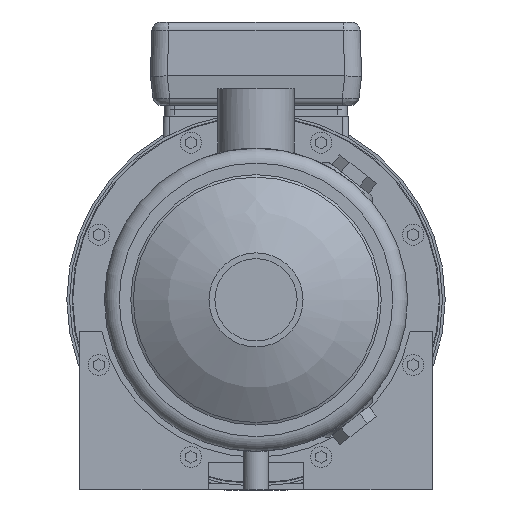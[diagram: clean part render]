
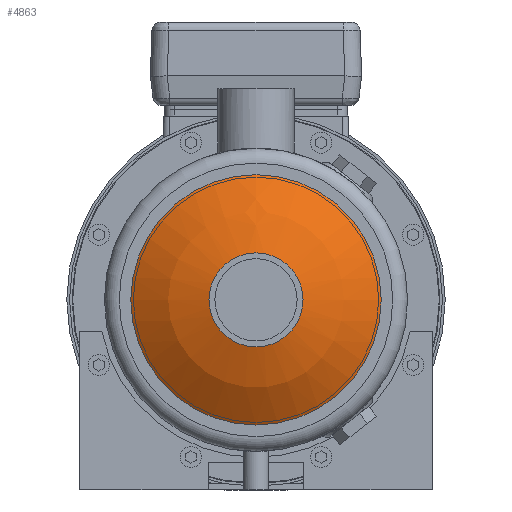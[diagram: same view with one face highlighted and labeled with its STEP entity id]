
A CAD part, left-side view. The second image highlights one B-rep face of the part: STEP entity #4863.
In plain terms, the highlighted spherical face has radius 100 mm.
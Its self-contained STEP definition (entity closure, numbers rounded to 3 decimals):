
#87=SPHERICAL_SURFACE('',#6537,100.);
#1105=ORIENTED_EDGE('',*,*,#2450,.T.);
#1106=ORIENTED_EDGE('',*,*,#2449,.F.);
#2449=EDGE_CURVE('',#3126,#3126,#3589,.T.);
#2450=EDGE_CURVE('',#3127,#3127,#3590,.T.);
#3126=VERTEX_POINT('',#8749);
#3127=VERTEX_POINT('',#8752);
#3589=CIRCLE('',#6536,22.25);
#3590=CIRCLE('',#6538,59.25);
#3814=EDGE_LOOP('',(#1105));
#3815=EDGE_LOOP('',(#1106));
#4256=FACE_BOUND('',#3814,.T.);
#4257=FACE_BOUND('',#3815,.T.);
#4863=ADVANCED_FACE('',(#4256,#4257),#87,.T.);
#6536=AXIS2_PLACEMENT_3D('',#8748,#7142,#7143);
#6537=AXIS2_PLACEMENT_3D('',#8750,#7144,#7145);
#6538=AXIS2_PLACEMENT_3D('',#8751,#7146,#7147);
#7142=DIRECTION('',(-1.,0.,0.));
#7143=DIRECTION('',(0.,0.,1.));
#7144=DIRECTION('',(-1.,0.,0.));
#7145=DIRECTION('',(0.,0.,1.));
#7146=DIRECTION('',(-1.,0.,0.));
#7147=DIRECTION('',(0.,0.,1.));
#8748=CARTESIAN_POINT('',(-140.693,0.,0.));
#8749=CARTESIAN_POINT('',(-140.693,0.,22.25));
#8750=CARTESIAN_POINT('',(-43.2,0.,0.));
#8751=CARTESIAN_POINT('',(-123.757,0.,0.));
#8752=CARTESIAN_POINT('',(-123.757,0.,59.25));
